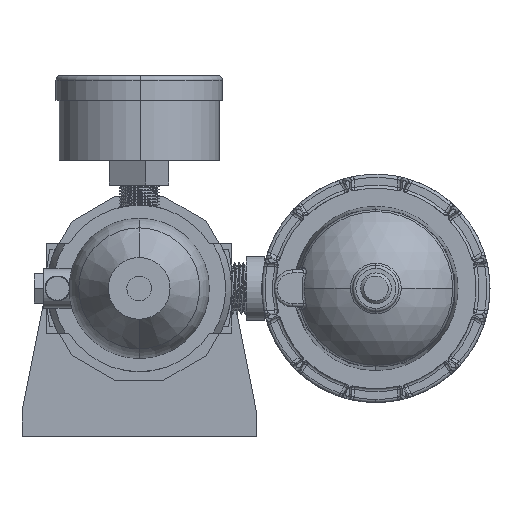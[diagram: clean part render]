
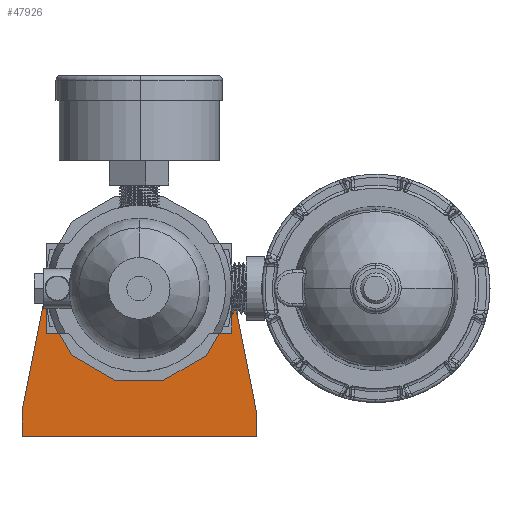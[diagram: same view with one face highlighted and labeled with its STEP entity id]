
A CAD part, front view. The second image highlights one B-rep face of the part: STEP entity #47926.
In plain terms, the highlighted planar face has unit normal (0, -1, 0).
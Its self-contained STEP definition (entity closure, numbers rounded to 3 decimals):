
#1042 = CARTESIAN_POINT ( 'NONE',  ( 38., 0., -40. ) ) ;
#1226 = DIRECTION ( 'NONE',  ( 0., 1., 0. ) ) ;
#1314 = LINE ( 'NONE', #21048, #5677 ) ;
#1836 = VECTOR ( 'NONE', #6802, 1000. ) ;
#3130 = AXIS2_PLACEMENT_3D ( 'NONE', #16410, #44224, #43880 ) ;
#5411 = FACE_BOUND ( 'NONE', #25470, .T. ) ;
#5677 = VECTOR ( 'NONE', #25040, 1000. ) ;
#6616 = VECTOR ( 'NONE', #13245, 1000. ) ;
#6802 = DIRECTION ( 'NONE',  ( -1., 0., 0. ) ) ;
#6863 = LINE ( 'NONE', #30797, #1836 ) ;
#7347 = DIRECTION ( 'NONE',  ( 0., 0., -1. ) ) ;
#7721 = ORIENTED_EDGE ( 'NONE', *, *, #17541, .F. ) ;
#10245 = CIRCLE ( 'NONE', #14310, 24. ) ;
#10933 = VERTEX_POINT ( 'NONE', #1042 ) ;
#11402 = EDGE_CURVE ( 'NONE', #28251, #10933, #1314, .T. ) ;
#11562 = LINE ( 'NONE', #36898, #6616 ) ;
#12523 = VERTEX_POINT ( 'NONE', #26654 ) ;
#13245 = DIRECTION ( 'NONE',  ( 0., 0., 1. ) ) ;
#13567 = CARTESIAN_POINT ( 'NONE',  ( -28.937, 0., 5.734 ) ) ;
#13704 = ORIENTED_EDGE ( 'NONE', *, *, #39874, .T. ) ;
#13942 = ORIENTED_EDGE ( 'NONE', *, *, #15767, .T. ) ;
#14209 = CIRCLE ( 'NONE', #3130, 24. ) ;
#14310 = AXIS2_PLACEMENT_3D ( 'NONE', #48924, #1226, #41587 ) ;
#14841 = CARTESIAN_POINT ( 'NONE',  ( 0., 0., 0. ) ) ;
#15236 = EDGE_LOOP ( 'NONE', ( #40045, #28200, #18010, #7721, #30461, #21925 ) ) ;
#15302 = VERTEX_POINT ( 'NONE', #13567 ) ;
#15363 = DIRECTION ( 'NONE',  ( 0., 0., 1. ) ) ;
#15767 = EDGE_CURVE ( 'NONE', #12523, #40947, #10245, .T. ) ;
#16410 = CARTESIAN_POINT ( 'NONE',  ( 0., 0., 0. ) ) ;
#17459 = AXIS2_PLACEMENT_3D ( 'NONE', #38710, #35065, #22404 ) ;
#17541 = EDGE_CURVE ( 'NONE', #10933, #29136, #42473, .T. ) ;
#18010 = ORIENTED_EDGE ( 'NONE', *, *, #45262, .F. ) ;
#18908 = CARTESIAN_POINT ( 'NONE',  ( 0., 0., -24. ) ) ;
#21048 = CARTESIAN_POINT ( 'NONE',  ( 38., 0., -40. ) ) ;
#21925 = ORIENTED_EDGE ( 'NONE', *, *, #38078, .F. ) ;
#22404 = DIRECTION ( 'NONE',  ( 0., 0., 1. ) ) ;
#22711 = VECTOR ( 'NONE', #38433, 1000. ) ;
#24985 = CARTESIAN_POINT ( 'NONE',  ( 28.937, 0., 5.734 ) ) ;
#25040 = DIRECTION ( 'NONE',  ( 0.194, 0., -0.981 ) ) ;
#25350 = FACE_OUTER_BOUND ( 'NONE', #15236, .T. ) ;
#25470 = EDGE_LOOP ( 'NONE', ( #13942, #13704 ) ) ;
#26027 = CARTESIAN_POINT ( 'NONE',  ( 38., 0., -48. ) ) ;
#26654 = CARTESIAN_POINT ( 'NONE',  ( 0., 0., 24. ) ) ;
#28200 = ORIENTED_EDGE ( 'NONE', *, *, #49053, .F. ) ;
#28251 = VERTEX_POINT ( 'NONE', #24985 ) ;
#29136 = VERTEX_POINT ( 'NONE', #26027 ) ;
#30461 = ORIENTED_EDGE ( 'NONE', *, *, #11402, .F. ) ;
#30797 = CARTESIAN_POINT ( 'NONE',  ( -38., 0., -48. ) ) ;
#30813 = VERTEX_POINT ( 'NONE', #42864 ) ;
#34856 = CARTESIAN_POINT ( 'NONE',  ( 38., 0., -48. ) ) ;
#35065 = DIRECTION ( 'NONE',  ( 0., 1., 0. ) ) ;
#36898 = CARTESIAN_POINT ( 'NONE',  ( -38., 0., -48. ) ) ;
#37892 = VERTEX_POINT ( 'NONE', #40487 ) ;
#38078 = EDGE_CURVE ( 'NONE', #15302, #28251, #39892, .T. ) ;
#38433 = DIRECTION ( 'NONE',  ( 0.194, 0., 0.981 ) ) ;
#38710 = CARTESIAN_POINT ( 'NONE',  ( 0., 0., 0. ) ) ;
#38728 = VECTOR ( 'NONE', #7347, 1000. ) ;
#39874 = EDGE_CURVE ( 'NONE', #40947, #12523, #14209, .T. ) ;
#39892 = CIRCLE ( 'NONE', #17459, 29.5 ) ;
#40045 = ORIENTED_EDGE ( 'NONE', *, *, #49820, .F. ) ;
#40487 = CARTESIAN_POINT ( 'NONE',  ( -38., 0., -48. ) ) ;
#40947 = VERTEX_POINT ( 'NONE', #18908 ) ;
#41587 = DIRECTION ( 'NONE',  ( 0., 0., 1. ) ) ;
#42473 = LINE ( 'NONE', #34856, #38728 ) ;
#42666 = DIRECTION ( 'NONE',  ( 0., 1., 0. ) ) ;
#42864 = CARTESIAN_POINT ( 'NONE',  ( -38., 0., -40. ) ) ;
#43397 = AXIS2_PLACEMENT_3D ( 'NONE', #14841, #42666, #15363 ) ;
#43880 = DIRECTION ( 'NONE',  ( 0., 0., 1. ) ) ;
#44224 = DIRECTION ( 'NONE',  ( 0., 1., 0. ) ) ;
#45262 = EDGE_CURVE ( 'NONE', #29136, #37892, #6863, .T. ) ;
#46364 = LINE ( 'NONE', #46448, #22711 ) ;
#46448 = CARTESIAN_POINT ( 'NONE',  ( -38., 0., -40. ) ) ;
#47926 = ADVANCED_FACE ( 'NONE', ( #5411, #25350 ), #50339, .F. ) ;
#48924 = CARTESIAN_POINT ( 'NONE',  ( 0., 0., 0. ) ) ;
#49053 = EDGE_CURVE ( 'NONE', #37892, #30813, #11562, .T. ) ;
#49820 = EDGE_CURVE ( 'NONE', #30813, #15302, #46364, .T. ) ;
#50339 = PLANE ( 'NONE',  #43397 ) ;
